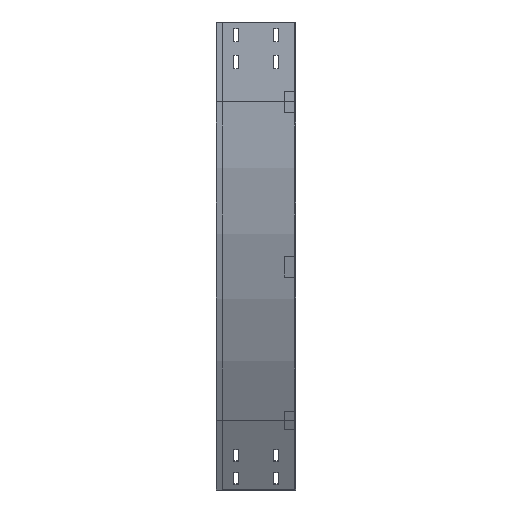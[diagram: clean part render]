
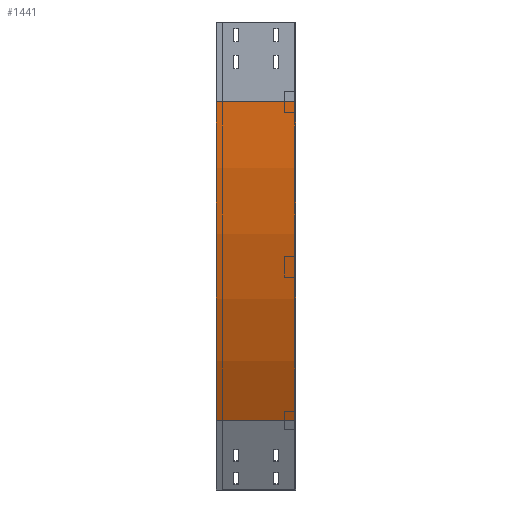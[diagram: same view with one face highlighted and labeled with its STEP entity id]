
A CAD part, left-side view. The second image highlights one B-rep face of the part: STEP entity #1441.
In plain terms, the highlighted cylindrical face has radius 1200 mm (diameter 2400 mm), a partial arc.
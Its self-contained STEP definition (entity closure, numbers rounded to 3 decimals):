
#403 = DIRECTION ( 'NONE',  ( 0., -1., 0. ) ) ;
#501 = FACE_OUTER_BOUND ( 'NONE', #2240, .T. ) ;
#518 = CYLINDRICAL_SURFACE ( 'NONE', #1837, 1200. ) ;
#551 = EDGE_CURVE ( 'NONE', #2674, #947, #803, .T. ) ;
#558 = CARTESIAN_POINT ( 'NONE',  ( 0., 150., -150. ) ) ;
#637 = AXIS2_PLACEMENT_3D ( 'NONE', #3821, #3504, #2246 ) ;
#756 = EDGE_CURVE ( 'NONE', #2821, #947, #2401, .T. ) ;
#803 = CIRCLE ( 'NONE', #1236, 1200. ) ;
#845 = VECTOR ( 'NONE', #1492, 1000. ) ;
#893 = CIRCLE ( 'NONE', #637, 1200. ) ;
#947 = VERTEX_POINT ( 'NONE', #1110 ) ;
#1106 = CARTESIAN_POINT ( 'NONE',  ( 0., 0., -150. ) ) ;
#1110 = CARTESIAN_POINT ( 'NONE',  ( 160.77, 0., -750. ) ) ;
#1120 = CARTESIAN_POINT ( 'NONE',  ( 0., 0., -150. ) ) ;
#1221 = CARTESIAN_POINT ( 'NONE',  ( 160.77, 150., -750. ) ) ;
#1236 = AXIS2_PLACEMENT_3D ( 'NONE', #2159, #403, #2666 ) ;
#1441 = ADVANCED_FACE ( 'NONE', ( #501 ), #518, .T. ) ;
#1492 = DIRECTION ( 'NONE',  ( 0., -1., 0. ) ) ;
#1521 = ORIENTED_EDGE ( 'NONE', *, *, #551, .F. ) ;
#1538 = ORIENTED_EDGE ( 'NONE', *, *, #3152, .T. ) ;
#1599 = VECTOR ( 'NONE', #2952, 1000. ) ;
#1765 = CARTESIAN_POINT ( 'NONE',  ( 160.77, 0., -750. ) ) ;
#1837 = AXIS2_PLACEMENT_3D ( 'NONE', #3144, #1980, #3167 ) ;
#1980 = DIRECTION ( 'NONE',  ( 0., -1., 0. ) ) ;
#2053 = ORIENTED_EDGE ( 'NONE', *, *, #2070, .F. ) ;
#2070 = EDGE_CURVE ( 'NONE', #3623, #2674, #3832, .T. ) ;
#2159 = CARTESIAN_POINT ( 'NONE',  ( 1200., 0., -150. ) ) ;
#2240 = EDGE_LOOP ( 'NONE', ( #1521, #2053, #1538, #3569 ) ) ;
#2246 = DIRECTION ( 'NONE',  ( -1., 0., 0. ) ) ;
#2401 = LINE ( 'NONE', #1765, #1599 ) ;
#2666 = DIRECTION ( 'NONE',  ( -1., 0., 0. ) ) ;
#2674 = VERTEX_POINT ( 'NONE', #1106 ) ;
#2821 = VERTEX_POINT ( 'NONE', #1221 ) ;
#2952 = DIRECTION ( 'NONE',  ( 0., -1., 0. ) ) ;
#3144 = CARTESIAN_POINT ( 'NONE',  ( 1200., 0., -150. ) ) ;
#3152 = EDGE_CURVE ( 'NONE', #3623, #2821, #893, .T. ) ;
#3167 = DIRECTION ( 'NONE',  ( 0., 0., -1. ) ) ;
#3504 = DIRECTION ( 'NONE',  ( 0., -1., 0. ) ) ;
#3569 = ORIENTED_EDGE ( 'NONE', *, *, #756, .T. ) ;
#3623 = VERTEX_POINT ( 'NONE', #558 ) ;
#3821 = CARTESIAN_POINT ( 'NONE',  ( 1200., 150., -150. ) ) ;
#3832 = LINE ( 'NONE', #1120, #845 ) ;
